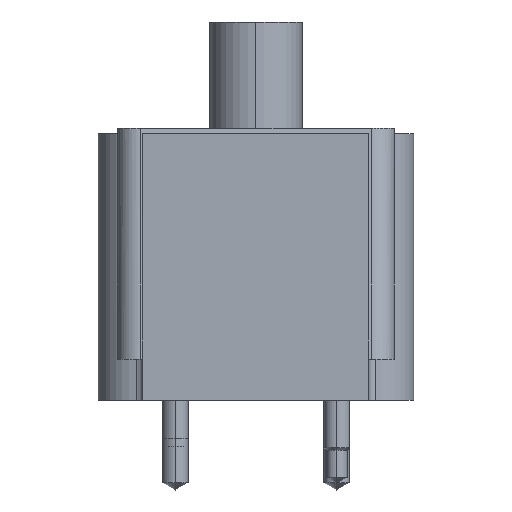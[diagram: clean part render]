
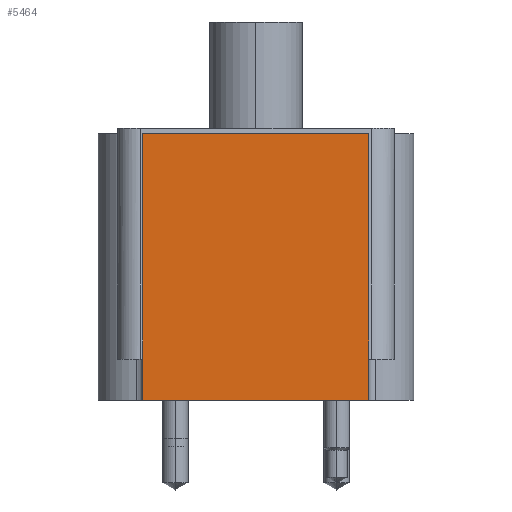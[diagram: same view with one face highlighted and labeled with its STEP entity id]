
A CAD part, left-side view. The second image highlights one B-rep face of the part: STEP entity #5464.
In plain terms, the highlighted planar face has unit normal (-1, 0, 0).
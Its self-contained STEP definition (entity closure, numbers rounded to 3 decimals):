
#5140=CARTESIAN_POINT('',(-84.201,-34.988,0.0));
#5141=VERTEX_POINT('',#5140);
#5158=CARTESIAN_POINT('',(-84.201,-34.988,82.55));
#5159=VERTEX_POINT('',#5158);
#5166=CARTESIAN_POINT('',(-84.201,-34.988,6.35));
#5167=DIRECTION('',(0.0,0.0,-1.0));
#5168=VECTOR('',#5167,1.0);
#5169=LINE('',#5166,#5168);
#5170=EDGE_CURVE('',#5159,#5141,#5169,.T.);
#5281=CARTESIAN_POINT('',(-84.201,34.988,0.0));
#5282=VERTEX_POINT('',#5281);
#5283=CARTESIAN_POINT('',(-84.201,0.0,0.0));
#5284=DIRECTION('',(0.0,-1.0,0.0));
#5285=VECTOR('',#5284,1.0);
#5286=LINE('',#5283,#5285);
#5287=EDGE_CURVE('',#5282,#5141,#5286,.T.);
#5441=ORIENTED_EDGE('',*,*,#5287,.T.);
#5442=ORIENTED_EDGE('',*,*,#5170,.F.);
#5443=CARTESIAN_POINT('',(-84.201,34.988,82.55));
#5444=VERTEX_POINT('',#5443);
#5445=CARTESIAN_POINT('',(-84.201,0.0,82.55));
#5446=DIRECTION('',(0.0,1.0,0.0));
#5447=VECTOR('',#5446,1.0);
#5448=LINE('',#5445,#5447);
#5449=EDGE_CURVE('',#5159,#5444,#5448,.T.);
#5450=ORIENTED_EDGE('',*,*,#5449,.T.);
#5451=CARTESIAN_POINT('',(-84.201,34.988,6.35));
#5452=DIRECTION('',(0.0,0.0,1.0));
#5453=VECTOR('',#5452,1.0);
#5454=LINE('',#5451,#5453);
#5455=EDGE_CURVE('',#5282,#5444,#5454,.T.);
#5456=ORIENTED_EDGE('',*,*,#5455,.F.);
#5457=EDGE_LOOP('',(#5441,#5442,#5450,#5456));
#5458=FACE_OUTER_BOUND('',#5457,.T.);
#5459=CARTESIAN_POINT('',(-84.201,0.0,0.0));
#5460=DIRECTION('',(-1.0,0.0,-0.0));
#5461=DIRECTION('',(-0.0,0.0,1.0));
#5462=AXIS2_PLACEMENT_3D('',#5459,#5460,#5461);
#5463=PLANE('',#5462);
#5464=ADVANCED_FACE('',(#5458),#5463,.T.);
